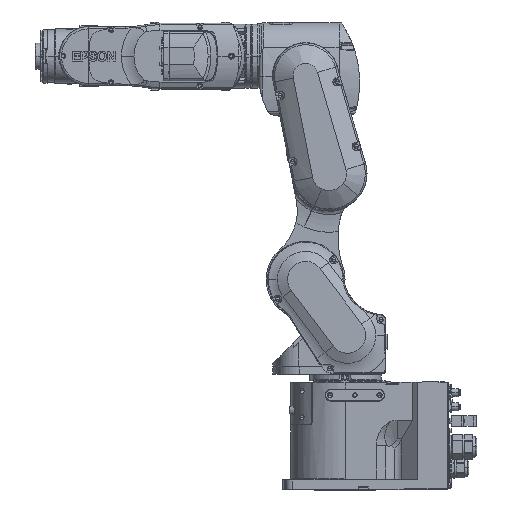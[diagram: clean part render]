
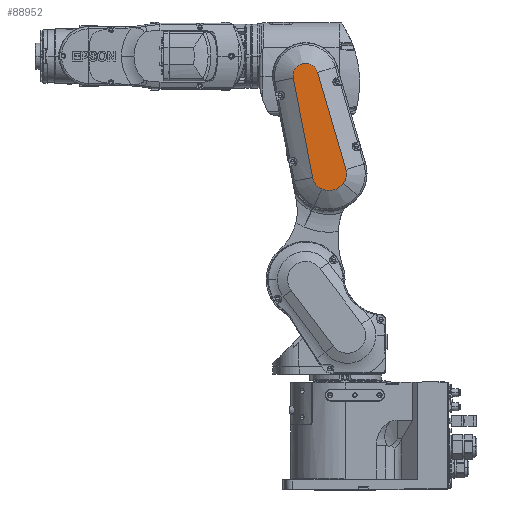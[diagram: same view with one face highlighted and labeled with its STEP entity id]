
A CAD part, top view. The second image highlights one B-rep face of the part: STEP entity #88952.
In plain terms, the highlighted planar face has unit normal (0, 0, 1).
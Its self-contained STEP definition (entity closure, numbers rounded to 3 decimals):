
#11535 = VERTEX_POINT ( 'NONE', #120566 ) ;
#11741 = VECTOR ( 'NONE', #15606, 1000. ) ;
#13668 = LINE ( 'NONE', #27457, #11741 ) ;
#15606 = DIRECTION ( 'NONE',  ( -0.281, 0.96, 0. ) ) ;
#17873 = DIRECTION ( 'NONE',  ( -0.407, -0.914, 0. ) ) ;
#27457 = CARTESIAN_POINT ( 'NONE',  ( 61.437, 167.571, 110. ) ) ;
#28578 = ORIENTED_EDGE ( 'NONE', *, *, #29788, .T. ) ;
#29788 = EDGE_CURVE ( 'NONE', #176836, #114144, #193216, .T. ) ;
#34715 = CARTESIAN_POINT ( 'NONE',  ( -18.644, 306.381, 110. ) ) ;
#35011 = CARTESIAN_POINT ( 'NONE',  ( 24.508, 137.926, 110. ) ) ;
#39002 = AXIS2_PLACEMENT_3D ( 'NONE', #156623, #99403, #68830 ) ;
#50631 = CARTESIAN_POINT ( 'NONE',  ( 24.508, 137.926, 110. ) ) ;
#58118 = CARTESIAN_POINT ( 'NONE',  ( -18.641, 306.382, 110. ) ) ;
#58864 = CIRCLE ( 'NONE', #181683, 27.491 ) ;
#61227 = VECTOR ( 'NONE', #65883, 1000. ) ;
#64150 = CARTESIAN_POINT ( 'NONE',  ( 35.69, 163.04, 110. ) ) ;
#64813 = EDGE_CURVE ( 'NONE', #114144, #114912, #87898, .T. ) ;
#65604 = ORIENTED_EDGE ( 'NONE', *, *, #64813, .T. ) ;
#65883 = DIRECTION ( 'NONE',  ( -0.982, -0.191, 0. ) ) ;
#68830 = DIRECTION ( 'NONE',  ( 0.777, -0.629, 0. ) ) ;
#74786 = ORIENTED_EDGE ( 'NONE', *, *, #78781, .T. ) ;
#75050 = CARTESIAN_POINT ( 'NONE',  ( -18.641, 306.382, 110. ) ) ;
#76159 = ORIENTED_EDGE ( 'NONE', *, *, #128577, .T. ) ;
#76405 = CARTESIAN_POINT ( 'NONE',  ( 61.437, 167.571, 110. ) ) ;
#78781 = EDGE_CURVE ( 'NONE', #89458, #176836, #143333, .T. ) ;
#81118 = FACE_OUTER_BOUND ( 'NONE', #156548, .T. ) ;
#87898 = LINE ( 'NONE', #159969, #156895 ) ;
#88952 = ADVANCED_FACE ( 'NONE', ( #81118 ), #182823, .F. ) ;
#89458 = VERTEX_POINT ( 'NONE', #108349 ) ;
#89871 = AXIS2_PLACEMENT_3D ( 'NONE', #141873, #189265, #113303 ) ;
#91343 = ORIENTED_EDGE ( 'NONE', *, *, #153086, .T. ) ;
#93977 = DIRECTION ( 'NONE',  ( 0., 0., -1. ) ) ;
#99403 = DIRECTION ( 'NONE',  ( 0., 0., 1. ) ) ;
#108349 = CARTESIAN_POINT ( 'NONE',  ( 18.231, 315.323, 110. ) ) ;
#108765 = DIRECTION ( 'NONE',  ( -0.982, -0.191, 0. ) ) ;
#108808 = DIRECTION ( 'NONE',  ( 0., -1., 0. ) ) ;
#110854 = CARTESIAN_POINT ( 'NONE',  ( 10.716, 155.267, 110. ) ) ;
#113303 = DIRECTION ( 'NONE',  ( -1., 0., 0. ) ) ;
#114144 = VERTEX_POINT ( 'NONE', #34715 ) ;
#114912 = VERTEX_POINT ( 'NONE', #110854 ) ;
#119645 = DIRECTION ( 'NONE',  ( 0., 0., 1. ) ) ;
#120566 = CARTESIAN_POINT ( 'NONE',  ( 57.055, 145.739, 110. ) ) ;
#124275 = DIRECTION ( 'NONE',  ( 0., 0., 1. ) ) ;
#128577 = EDGE_CURVE ( 'NONE', #114912, #172961, #135830, .T. ) ;
#130170 = CIRCLE ( 'NONE', #39002, 23.991 ) ;
#135830 = CIRCLE ( 'NONE', #145206, 23.991 ) ;
#141873 = CARTESIAN_POINT ( 'NONE',  ( 0.003, 309.993, 110. ) ) ;
#143333 = CIRCLE ( 'NONE', #89871, 18.991 ) ;
#145206 = AXIS2_PLACEMENT_3D ( 'NONE', #151150, #119645, #108765 ) ;
#147760 = EDGE_CURVE ( 'NONE', #172961, #11535, #58864, .T. ) ;
#148045 = DIRECTION ( 'NONE',  ( 0.191, -0.982, 0. ) ) ;
#151150 = CARTESIAN_POINT ( 'NONE',  ( 34.266, 159.843, 110. ) ) ;
#153086 = EDGE_CURVE ( 'NONE', #11535, #183497, #130170, .T. ) ;
#156548 = EDGE_LOOP ( 'NONE', ( #74786, #28578, #65604, #76159, #181448, #91343, #167917 ) ) ;
#156623 = CARTESIAN_POINT ( 'NONE',  ( 38.41, 160.837, 110. ) ) ;
#156895 = VECTOR ( 'NONE', #148045, 1000. ) ;
#159969 = CARTESIAN_POINT ( 'NONE',  ( -18.644, 306.381, 110. ) ) ;
#167917 = ORIENTED_EDGE ( 'NONE', *, *, #188119, .T. ) ;
#172961 = VERTEX_POINT ( 'NONE', #35011 ) ;
#176836 = VERTEX_POINT ( 'NONE', #75050 ) ;
#181448 = ORIENTED_EDGE ( 'NONE', *, *, #147760, .T. ) ;
#181683 = AXIS2_PLACEMENT_3D ( 'NONE', #64150, #124275, #17873 ) ;
#182823 = PLANE ( 'NONE',  #192881 ) ;
#183497 = VERTEX_POINT ( 'NONE', #76405 ) ;
#188119 = EDGE_CURVE ( 'NONE', #183497, #89458, #13668, .T. ) ;
#189265 = DIRECTION ( 'NONE',  ( 0., 0., 1. ) ) ;
#192881 = AXIS2_PLACEMENT_3D ( 'NONE', #50631, #93977, #108808 ) ;
#193216 = LINE ( 'NONE', #58118, #61227 ) ;
